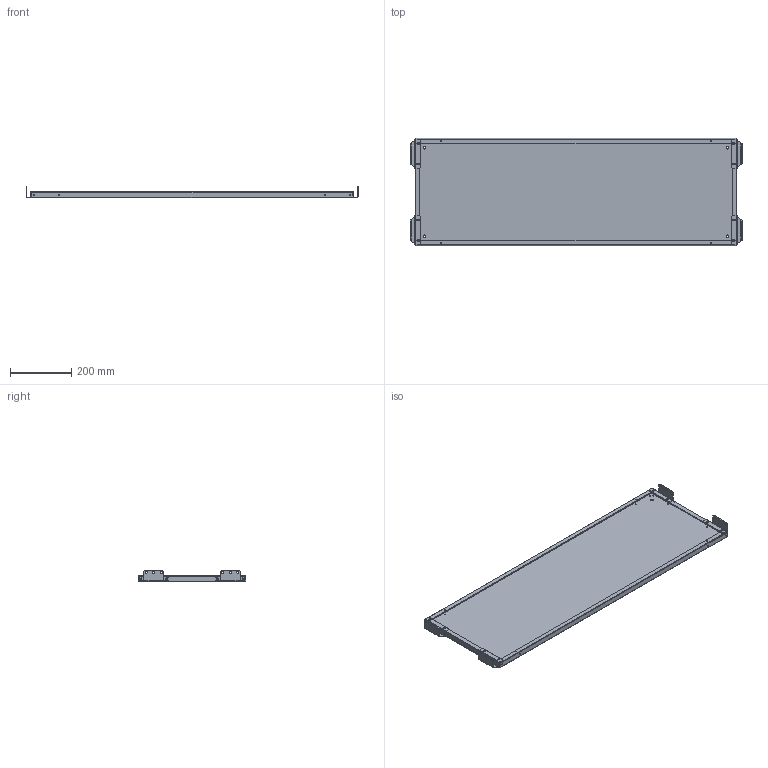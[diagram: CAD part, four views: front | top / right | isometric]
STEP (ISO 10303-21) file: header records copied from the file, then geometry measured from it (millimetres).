
FILE_DESCRIPTION(('STEP AP203'), '1');
FILE_NAME('MP 105.35 M Ïàíåëü ìîíòàæíàÿ ñåêöèîííàÿ', '2018-06-13T08:57:21', (' '), (''), 'ASCON STEP Converter 1.3', 'ASCON Math Kernel', '');
FILE_SCHEMA(('CONFIG_CONTROL_DESIGN'));
Length unit declared in the file: millimetre
Products named in the file (1): MP 105.35 M
Bounding box: 1085 x 350 x 37.75 mm (x, y, z)
Volume: 953071.7 mm3; surface area: 963574.1 mm2
Topology: 5 solids, 5 shells, 316 faces, 800 edges, 488 vertices
Faces by surface type: plane 168, cylinder 124, bspline 16, sphere 8
Full cylindrical faces by diameter (mm): 3.6 x40, 4 x8, 7 x12, 9 x4
Entity records: 13248 total; most frequent: CARTESIAN_POINT 3037, DIRECTION 1514, ORIENTED_EDGE 1456, EDGE_CURVE 728, EDGE_LOOP 526, AXIS2_PLACEMENT_3D 517, VERTEX_POINT 488, LINE 480
